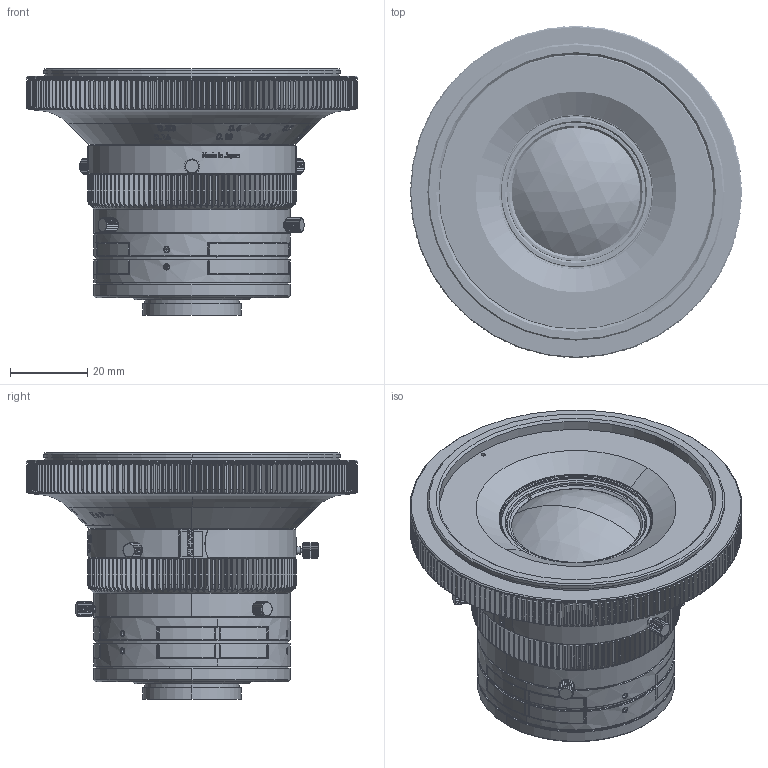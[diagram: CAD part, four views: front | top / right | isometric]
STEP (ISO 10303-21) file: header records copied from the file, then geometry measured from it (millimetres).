
FILE_DESCRIPTION((''),'2;1');
FILE_NAME('ASM0001_ASM','2018-04-06T',('zouwb'),('CARL ZEISS'),'PRO/ENGINEER BY PARAMETRIC TECHNOLOGY CORPORATION, 2015030','PRO/ENGINEER BY PARAMETRIC TECHNOLOGY CORPORATION, 2015030','');
FILE_SCHEMA(('AUTOMOTIVE_DESIGN { 1 0 10303 214 1 1 1 1 }'));
Products named in the file (34): KPM-1010-183-01_APARTURE_GEAR_P; EEP3_5A_M2__3_5__EEP2_5A; KPM-1011_184BX_FOCUS_LEVER; KPM-1010-101_FRONT_LENS_BARREL; KPM-1010-102_G1_CLAMP; KPM-1010-001_G1; KPM-1010_FRONT_LENS_BARREL_ASSY_ASM; ____1; ____-______O__4_4_; ____-______O__4_5_; ____-______O__4_2_; ____-______O__4_1_; ____-______O__4_3_; KPM-1011_190A_CZ_LOGO_ASM; KPM-1010-144_HELI_MINUS_B; KPM-1010-182-01_INDEX_RING_PRIN; KPM-1010-185_SHADING_RING; KPM-1010-014_G14; KPM-1010-018_G13-G14_ASSY_ASM; KPM-1010-112_G14_CLAMP; KPM-1010-108_REAR_LENS_BARREL; KPM-1010_REAR_LENS_BARREL_ASSY_ASM; KPM-1011_175_THREAD_RING_B; AEF_AEF3; KPM-1011_174_THREAD_RING_A; KPM-1011_177_FOAM_PAD_A; KPM-1011_171_BF_BASE__X_G_B_P__; KPM-1011_172_BF_EXTENSION; KPM-1011_176_FOAM_RING; KPM-1011_BFA_ASSY_ASM; KPM-1010-184_FRONT_FRAME; KPM-1010-181-01_FOCUS_GEAR_PRIN; KPM-1011_201A_C_MOUNT; ASM0001_ASM
Assembly tree (48 placements, depth 4):
  ASM0001_ASM
    KPM-1010-183-01_APARTURE_GEAR_P
    EEP3_5A_M2__3_5__EEP2_5A  x4
    KPM-1011_184BX_FOCUS_LEVER  x6
    KPM-1010_FRONT_LENS_BARREL_ASSY_ASM
      KPM-1010-101_FRONT_LENS_BARREL
      KPM-1010-102_G1_CLAMP
      KPM-1010-001_G1
    KPM-1011_190A_CZ_LOGO_ASM  x2
      ____1
      ____-______O__4_4_
      ____-______O__4_5_
      ____-______O__4_2_
      ____-______O__4_1_
      ____-______O__4_3_
    KPM-1010-144_HELI_MINUS_B
    KPM-1010-182-01_INDEX_RING_PRIN
    KPM-1010-185_SHADING_RING
    KPM-1010_REAR_LENS_BARREL_ASSY_ASM
      KPM-1010-018_G13-G14_ASSY_ASM
        KPM-1010-014_G14
      KPM-1010-112_G14_CLAMP
      KPM-1010-108_REAR_LENS_BARREL
    KPM-1011_BFA_ASSY_ASM
      KPM-1011_175_THREAD_RING_B
      AEF_AEF3  x6
      KPM-1011_174_THREAD_RING_A
      KPM-1011_177_FOAM_PAD_A  x2
      KPM-1011_171_BF_BASE__X_G_B_P__
      KPM-1011_172_BF_EXTENSION
      KPM-1011_176_FOAM_RING
    KPM-1010-184_FRONT_FRAME
    KPM-1010-181-01_FOCUS_GEAR_PRIN
    KPM-1011_201A_C_MOUNT
Bounding box: 86 x 86 x 63.87 mm (x, y, z)
Volume: 78228.9 mm3; surface area: 90796.1 mm2
Topology: 48 solids, 48 shells, 6183 faces, 16636 edges, 10793 vertices
Faces by surface type: plane 1887, cylinder 1558, bspline 1391, cone 988, torus 294, extrusion 57, sphere 8
Entity records: 266793 total; most frequent: CARTESIAN_POINT 136778, ORIENTED_EDGE 28766, DIRECTION 21178, EDGE_CURVE 14383, VERTEX_POINT 9473, AXIS2_PLACEMENT_3D 7939, EDGE_LOOP 5632, VECTOR 5300
